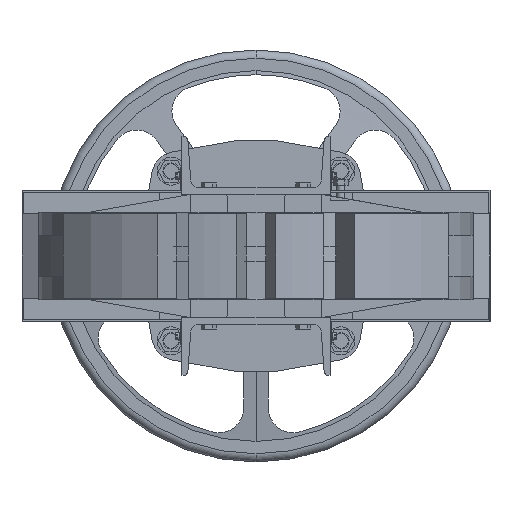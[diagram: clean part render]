
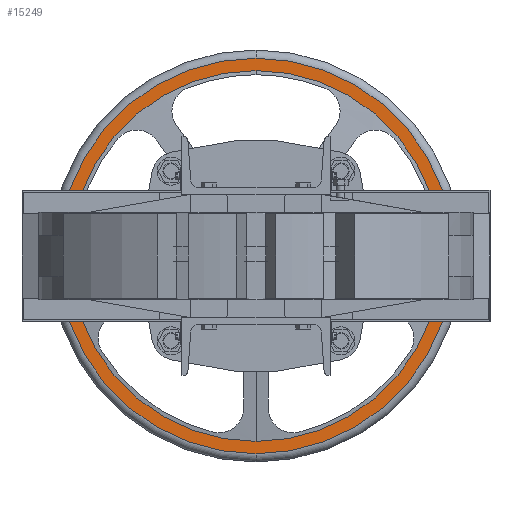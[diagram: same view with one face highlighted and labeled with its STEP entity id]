
A CAD part, front view. The second image highlights one B-rep face of the part: STEP entity #15249.
In plain terms, the highlighted planar face has unit normal (0, -1, 0).
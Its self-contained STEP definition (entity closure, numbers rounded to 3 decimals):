
#10408 = ORIENTED_EDGE ( 'NONE', *, *, #55360, .F. ) ;
#10549 = EDGE_LOOP ( 'NONE', ( #10408, #15467 ) ) ;
#13281 = DIRECTION ( 'NONE',  ( 0., 0., 1. ) ) ;
#13282 = DIRECTION ( 'NONE',  ( 0., 1., 0. ) ) ;
#13283 = CARTESIAN_POINT ( 'NONE',  ( 240., 2362.857, 0. ) ) ;
#13285 = AXIS2_PLACEMENT_3D ( 'NONE', #13283, #13282, #13281 ) ;
#13286 = PLANE ( 'NONE',  #13285 ) ;
#13287 = FACE_BOUND ( 'NONE', #15302, .T. ) ;
#13288 = FACE_OUTER_BOUND ( 'NONE', #10549, .T. ) ;
#13382 = DIRECTION ( 'NONE',  ( 0., 0., 1. ) ) ;
#13383 = DIRECTION ( 'NONE',  ( 0., 1., 0. ) ) ;
#13385 = CARTESIAN_POINT ( 'NONE',  ( 0., 2362.857, 0. ) ) ;
#13386 = AXIS2_PLACEMENT_3D ( 'NONE', #13385, #13383, #13382 ) ;
#13387 = CIRCLE ( 'NONE', #13386, 225. ) ;
#14897 = DIRECTION ( 'NONE',  ( 0., 0., 1. ) ) ;
#14898 = DIRECTION ( 'NONE',  ( 0., 1., 0. ) ) ;
#14900 = CARTESIAN_POINT ( 'NONE',  ( 0., 2362.857, 0. ) ) ;
#14901 = AXIS2_PLACEMENT_3D ( 'NONE', #14900, #14898, #14897 ) ;
#14902 = CIRCLE ( 'NONE', #14901, 240. ) ;
#15249 = ADVANCED_FACE ( 'NONE', ( #13288, #13287 ), #13286, .F. ) ;
#15302 = EDGE_LOOP ( 'NONE', ( #15304, #15310 ) ) ;
#15304 = ORIENTED_EDGE ( 'NONE', *, *, #38330, .T. ) ;
#15310 = ORIENTED_EDGE ( 'NONE', *, *, #15338, .T. ) ;
#15338 = EDGE_CURVE ( 'NONE', #38431, #38430, #13387, .T. ) ;
#15467 = ORIENTED_EDGE ( 'NONE', *, *, #16064, .F. ) ;
#16064 = EDGE_CURVE ( 'NONE', #55251, #55282, #14902, .T. ) ;
#38330 = EDGE_CURVE ( 'NONE', #38430, #38431, #48551, .T. ) ;
#38430 = VERTEX_POINT ( 'NONE', #49031 ) ;
#38431 = VERTEX_POINT ( 'NONE', #49029 ) ;
#48545 = DIRECTION ( 'NONE',  ( 0., 0., 1. ) ) ;
#48546 = DIRECTION ( 'NONE',  ( 0., 1., 0. ) ) ;
#48547 = CARTESIAN_POINT ( 'NONE',  ( 0., 2362.857, 0. ) ) ;
#48549 = AXIS2_PLACEMENT_3D ( 'NONE', #48547, #48546, #48545 ) ;
#48551 = CIRCLE ( 'NONE', #48549, 225. ) ;
#49029 = CARTESIAN_POINT ( 'NONE',  ( 0., 2362.857, -225. ) ) ;
#49031 = CARTESIAN_POINT ( 'NONE',  ( 0., 2362.857, 225. ) ) ;
#53520 = CARTESIAN_POINT ( 'NONE',  ( 0., 2362.857, -240. ) ) ;
#53850 = CARTESIAN_POINT ( 'NONE',  ( 0., 2362.857, 240. ) ) ;
#54034 = DIRECTION ( 'NONE',  ( 0., 0., 1. ) ) ;
#54035 = DIRECTION ( 'NONE',  ( 0., 1., 0. ) ) ;
#54036 = CARTESIAN_POINT ( 'NONE',  ( 0., 2362.857, 0. ) ) ;
#54037 = AXIS2_PLACEMENT_3D ( 'NONE', #54036, #54035, #54034 ) ;
#54042 = CIRCLE ( 'NONE', #54037, 240. ) ;
#55251 = VERTEX_POINT ( 'NONE', #53520 ) ;
#55282 = VERTEX_POINT ( 'NONE', #53850 ) ;
#55360 = EDGE_CURVE ( 'NONE', #55282, #55251, #54042, .T. ) ;
